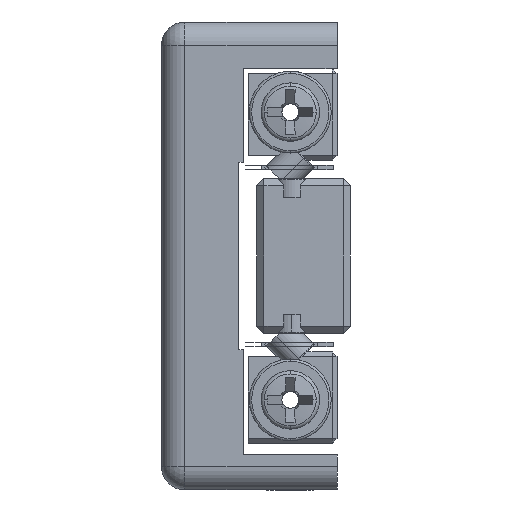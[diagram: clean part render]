
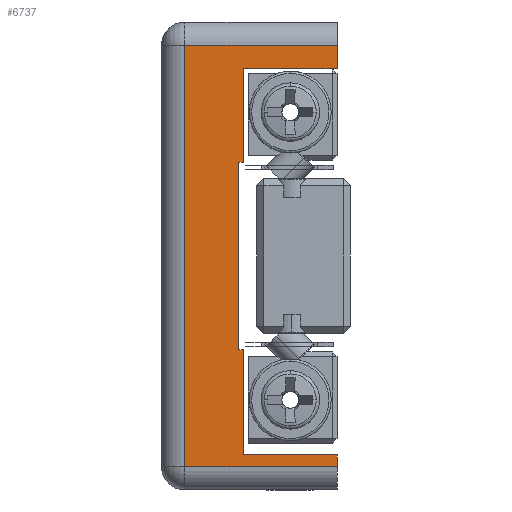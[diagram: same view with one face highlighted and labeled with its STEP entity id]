
A CAD part, left-side view. The second image highlights one B-rep face of the part: STEP entity #6737.
In plain terms, the highlighted planar face has unit normal (-1, 0, 0).
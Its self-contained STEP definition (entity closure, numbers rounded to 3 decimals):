
#3060 = CARTESIAN_POINT ( 'NONE',  ( -43.569, -0.113, -8.5 ) ) ;
#3061 = DIRECTION ( 'NONE',  ( 0., 0., -1. ) ) ;
#3534 = CARTESIAN_POINT ( 'NONE',  ( -43.569, 3.387, -9. ) ) ;
#3536 = DIRECTION ( 'NONE',  ( 0., -1., 0. ) ) ;
#4037 = EDGE_LOOP ( 'NONE', ( #34970, #34971, #34972, #34973, #34974, #34975, #34976, #34977, #34978, #34979, #34980, #34981 ) ) ;
#6737 = ADVANCED_FACE ( 'NONE', ( #27999 ), #8002, .F. ) ;
#7995 = CARTESIAN_POINT ( 'NONE',  ( -43.569, 3.387, -10. ) ) ;
#8002 = PLANE ( 'NONE',  #17829 ) ;
#8004 = DIRECTION ( 'NONE',  ( 1., 0., 0. ) ) ;
#8005 = DIRECTION ( 'NONE',  ( 0., 0., -1. ) ) ;
#8917 = EDGE_CURVE ( 'NONE', #25368, #25372, #19608, .T. ) ;
#8927 = EDGE_CURVE ( 'NONE', #25371, #25378, #19640, .T. ) ;
#8967 = EDGE_CURVE ( 'NONE', #25359, #25371, #19782, .T. ) ;
#9916 = CARTESIAN_POINT ( 'NONE',  ( -43.569, -0.113, -4. ) ) ;
#9917 = DIRECTION ( 'NONE',  ( 0., -1., 0. ) ) ;
#9922 = CARTESIAN_POINT ( 'NONE',  ( -43.569, 0.087, -4. ) ) ;
#9923 = DIRECTION ( 'NONE',  ( 0., 0., -1. ) ) ;
#9926 = CARTESIAN_POINT ( 'NONE',  ( -43.569, 0.087, 4. ) ) ;
#9927 = DIRECTION ( 'NONE',  ( 0., 1., 0. ) ) ;
#9932 = CARTESIAN_POINT ( 'NONE',  ( -43.569, -0.113, 4. ) ) ;
#9933 = DIRECTION ( 'NONE',  ( 0., 0., -1. ) ) ;
#10021 = CARTESIAN_POINT ( 'NONE',  ( -43.569, -0.113, 8. ) ) ;
#10022 = DIRECTION ( 'NONE',  ( 0., 1., 0. ) ) ;
#12532 = LINE ( 'NONE', #3060, #12535 ) ;
#12535 = VECTOR ( 'NONE', #3061, 1000. ) ;
#12637 = LINE ( 'NONE', #3534, #12640 ) ;
#12640 = VECTOR ( 'NONE', #3536, 1000. ) ;
#14714 = CARTESIAN_POINT ( 'NONE',  ( -43.569, 3.387, 9. ) ) ;
#14725 = DIRECTION ( 'NONE',  ( 0., 1., 0. ) ) ;
#17829 = AXIS2_PLACEMENT_3D ( 'NONE', #7995, #8004, #8005 ) ;
#19608 = LINE ( 'NONE', #26817, #19614 ) ;
#19614 = VECTOR ( 'NONE', #26819, 1000. ) ;
#19640 = LINE ( 'NONE', #26851, #19644 ) ;
#19644 = VECTOR ( 'NONE', #26850, 1000. ) ;
#19727 = LINE ( 'NONE', #41073, #19735 ) ;
#19733 = LINE ( 'NONE', #41076, #19737 ) ;
#19735 = VECTOR ( 'NONE', #41074, 1000. ) ;
#19737 = VECTOR ( 'NONE', #41095, 1000. ) ;
#19782 = LINE ( 'NONE', #14714, #19786 ) ;
#19786 = VECTOR ( 'NONE', #14725, 1000. ) ;
#24222 = EDGE_CURVE ( 'NONE', #25352, #25351, #30779, .T. ) ;
#24225 = EDGE_CURVE ( 'NONE', #25338, #25352, #30785, .T. ) ;
#24228 = EDGE_CURVE ( 'NONE', #25348, #25338, #30791, .T. ) ;
#24231 = EDGE_CURVE ( 'NONE', #25329, #25348, #30797, .T. ) ;
#24265 = EDGE_CURVE ( 'NONE', #25327, #25329, #30844, .T. ) ;
#25327 = VERTEX_POINT ( 'NONE', #48822 ) ;
#25329 = VERTEX_POINT ( 'NONE', #48827 ) ;
#25338 = VERTEX_POINT ( 'NONE', #48852 ) ;
#25348 = VERTEX_POINT ( 'NONE', #48880 ) ;
#25351 = VERTEX_POINT ( 'NONE', #48887 ) ;
#25352 = VERTEX_POINT ( 'NONE', #48889 ) ;
#25359 = VERTEX_POINT ( 'NONE', #48907 ) ;
#25368 = VERTEX_POINT ( 'NONE', #48930 ) ;
#25371 = VERTEX_POINT ( 'NONE', #48936 ) ;
#25372 = VERTEX_POINT ( 'NONE', #48939 ) ;
#25378 = VERTEX_POINT ( 'NONE', #48954 ) ;
#25381 = VERTEX_POINT ( 'NONE', #48962 ) ;
#26817 = CARTESIAN_POINT ( 'NONE',  ( -43.569, -4.113, -8.5 ) ) ;
#26819 = DIRECTION ( 'NONE',  ( 0., -1., 0. ) ) ;
#26850 = DIRECTION ( 'NONE',  ( 0., 0., -1. ) ) ;
#26851 = CARTESIAN_POINT ( 'NONE',  ( -43.569, 2.387, -10. ) ) ;
#27999 = FACE_OUTER_BOUND ( 'NONE', #4037, .T. ) ;
#30779 = LINE ( 'NONE', #9916, #30782 ) ;
#30782 = VECTOR ( 'NONE', #9917, 1000. ) ;
#30785 = LINE ( 'NONE', #9922, #30788 ) ;
#30788 = VECTOR ( 'NONE', #9923, 1000. ) ;
#30791 = LINE ( 'NONE', #9926, #30794 ) ;
#30794 = VECTOR ( 'NONE', #9927, 1000. ) ;
#30797 = LINE ( 'NONE', #9932, #30800 ) ;
#30800 = VECTOR ( 'NONE', #9933, 1000. ) ;
#30844 = LINE ( 'NONE', #10021, #30847 ) ;
#30847 = VECTOR ( 'NONE', #10022, 1000. ) ;
#34970 = ORIENTED_EDGE ( 'NONE', *, *, #42361, .T. ) ;
#34971 = ORIENTED_EDGE ( 'NONE', *, *, #8967, .T. ) ;
#34972 = ORIENTED_EDGE ( 'NONE', *, *, #8927, .T. ) ;
#34973 = ORIENTED_EDGE ( 'NONE', *, *, #42618, .T. ) ;
#34974 = ORIENTED_EDGE ( 'NONE', *, *, #42363, .T. ) ;
#34975 = ORIENTED_EDGE ( 'NONE', *, *, #8917, .F. ) ;
#34976 = ORIENTED_EDGE ( 'NONE', *, *, #42553, .F. ) ;
#34977 = ORIENTED_EDGE ( 'NONE', *, *, #24222, .F. ) ;
#34978 = ORIENTED_EDGE ( 'NONE', *, *, #24225, .F. ) ;
#34979 = ORIENTED_EDGE ( 'NONE', *, *, #24228, .F. ) ;
#34980 = ORIENTED_EDGE ( 'NONE', *, *, #24231, .F. ) ;
#34981 = ORIENTED_EDGE ( 'NONE', *, *, #24265, .F. ) ;
#41073 = CARTESIAN_POINT ( 'NONE',  ( -43.569, -4.113, -10. ) ) ;
#41074 = DIRECTION ( 'NONE',  ( 0., 0., 1. ) ) ;
#41076 = CARTESIAN_POINT ( 'NONE',  ( -43.569, -4.113, -10. ) ) ;
#41095 = DIRECTION ( 'NONE',  ( 0., 0., 1. ) ) ;
#42361 = EDGE_CURVE ( 'NONE', #25327, #25359, #19727, .T. ) ;
#42363 = EDGE_CURVE ( 'NONE', #25381, #25372, #19733, .T. ) ;
#42553 = EDGE_CURVE ( 'NONE', #25351, #25368, #12532, .T. ) ;
#42618 = EDGE_CURVE ( 'NONE', #25378, #25381, #12637, .T. ) ;
#48822 = CARTESIAN_POINT ( 'NONE',  ( -43.569, -4.113, 8. ) ) ;
#48827 = CARTESIAN_POINT ( 'NONE',  ( -43.569, -0.113, 8. ) ) ;
#48852 = CARTESIAN_POINT ( 'NONE',  ( -43.569, 0.087, 4. ) ) ;
#48880 = CARTESIAN_POINT ( 'NONE',  ( -43.569, -0.113, 4. ) ) ;
#48887 = CARTESIAN_POINT ( 'NONE',  ( -43.569, -0.113, -4. ) ) ;
#48889 = CARTESIAN_POINT ( 'NONE',  ( -43.569, 0.087, -4. ) ) ;
#48907 = CARTESIAN_POINT ( 'NONE',  ( -43.569, -4.113, 9. ) ) ;
#48930 = CARTESIAN_POINT ( 'NONE',  ( -43.569, -0.113, -8.5 ) ) ;
#48936 = CARTESIAN_POINT ( 'NONE',  ( -43.569, 2.387, 9. ) ) ;
#48939 = CARTESIAN_POINT ( 'NONE',  ( -43.569, -4.113, -8.5 ) ) ;
#48954 = CARTESIAN_POINT ( 'NONE',  ( -43.569, 2.387, -9. ) ) ;
#48962 = CARTESIAN_POINT ( 'NONE',  ( -43.569, -4.113, -9. ) ) ;
